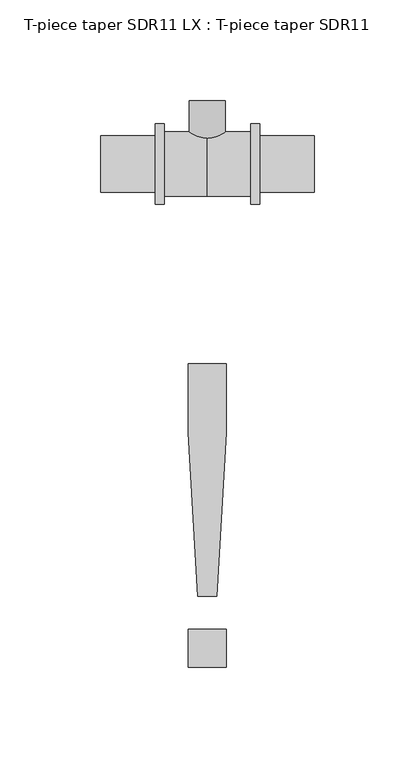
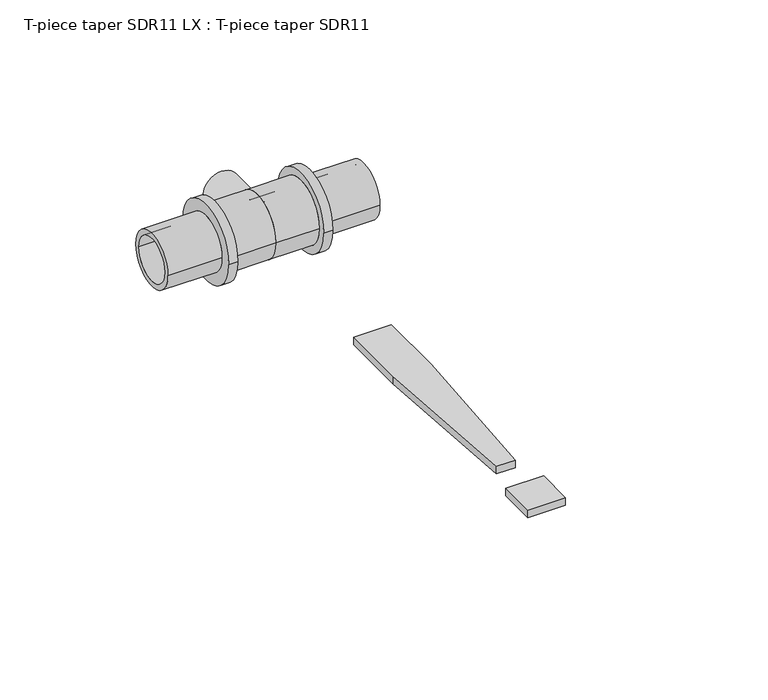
"""IFC4 building model written with IfcOpenShell, lengths in millimetres: pipe fitting geometry, T-piece taper SDR11 LX : T-piece taper SDR11."""

import ifcopenshell
import ifcopenshell.guid

model = None  # the IFC model being written
_history = None  # IfcOwnerHistory: only IFC2X3 demands one
_inside = {}  # id of a spatial element -> (the spatial element, [elements in it])
_under = {}  # id of a project, library or spatial element -> (it, [spatial elements below it])
_declared = {}  # id of a project -> (the project, [libraries it declares])
_typed = {}  # id of a type object -> (the type object, [elements of that type])
_made_of = {}  # id of a material, layer set ... -> (it, [elements and type objects made of it])


def new_model(schema):
    """Start an empty IFC model of exactly this schema.

    Asked for "IFC4X3", IfcOpenShell would pick the latest addendum, in which some entities
    have other attributes; the version numbers below select the first issue.
    IFC2X3 requires an IfcOwnerHistory on every rooted entity: one is made here for all.
    """
    global model, _history
    if schema == "IFC4X3":
        model = ifcopenshell.file(schema_version=(4, 3, 0, 0))
    else:
        model = ifcopenshell.file(schema=schema)
    _inside.clear()
    _under.clear()
    _declared.clear()
    _typed.clear()
    _made_of.clear()
    _history = None
    if model.schema == "IFC2X3":
        org = make("IfcOrganization", Name="unknown")
        user = make(
            "IfcPersonAndOrganization",
            ThePerson=make("IfcPerson", FamilyName="unknown"),
            TheOrganization=org,
        )
        app = make(
            "IfcApplication",
            ApplicationDeveloper=org,
            Version="unknown",
            ApplicationFullName="unknown",
            ApplicationIdentifier="unknown",
        )
        _history = make(
            "IfcOwnerHistory",
            OwningUser=user,
            OwningApplication=app,
            ChangeAction="ADDED",
            CreationDate=0,
        )
    return model


def make(cls, **values):
    """One entity of the class cls with the attributes given. An attribute that is None is left unset."""
    return model.create_entity(
        cls, **{name: value for name, value in values.items() if value is not None}
    )


def rooted(cls, **values):
    """An entity with a GlobalId (a new one), such as an element, a storey or a relation."""
    return make(cls, GlobalId=ifcopenshell.guid.new(), OwnerHistory=_history, **values)


def si_unit(unit_type, name, prefix=None):
    """IfcSIUnit, for example si_unit("LENGTHUNIT", "METRE", prefix="MILLI")."""
    return make("IfcSIUnit", UnitType=unit_type, Prefix=prefix, Name=name)


def assignment(units):
    """IfcUnitAssignment: the units of a project."""
    return None if units is None else make("IfcUnitAssignment", Units=units)


def point(xyz):
    """IfcCartesianPoint."""
    return None if xyz is None else make("IfcCartesianPoint", Coordinates=xyz)


def direction(xyz):
    """IfcDirection."""
    return None if xyz is None else make("IfcDirection", DirectionRatios=xyz)


def frame(location, z_axis=None, x_axis=None):
    """IfcAxis2Placement3D, a coordinate frame: its origin and axes. An axis left out is left unset."""
    return make(
        "IfcAxis2Placement3D",
        Location=point(location),
        Axis=direction(z_axis),
        RefDirection=direction(x_axis),
    )


def frame_2d(location, x_axis=None):
    """IfcAxis2Placement2D, a coordinate frame in the plane: its origin and x axis."""
    return make(
        "IfcAxis2Placement2D", Location=point(location), RefDirection=direction(x_axis)
    )


def origin():
    """The frame at (0, 0, 0) with its axes left unset."""
    return frame((0.0, 0.0, 0.0))


def origin_with_axes():
    """The frame at (0, 0, 0) with the z axis (0, 0, 1) and the x axis (1, 0, 0) written out."""
    return frame((0.0, 0.0, 0.0), z_axis=(0.0, 0.0, 1.0), x_axis=(1.0, 0.0, 0.0))


def origin_2d():
    """The frame at (0, 0) in the plane with its x axis left unset."""
    return frame_2d((0.0, 0.0))


def place(relative_to, where):
    """IfcLocalPlacement: puts the frame where relative to a parent placement (None: the world)."""
    return make(
        "IfcLocalPlacement", PlacementRelTo=relative_to, RelativePlacement=where
    )


def context(
    kind, dimensions, precision=None, world=None, true_north=None, identifier=None
):
    """IfcGeometricRepresentationContext, for example the 3D "Model" context."""
    return make(
        "IfcGeometricRepresentationContext",
        ContextIdentifier=identifier,
        ContextType=kind,
        CoordinateSpaceDimension=dimensions,
        Precision=precision,
        WorldCoordinateSystem=world,
        TrueNorth=true_north,
    )


def project(units=None, contexts=None):
    """IfcProject with its units and contexts."""
    return rooted(
        "IfcProject",
        Name="project",
        RepresentationContexts=contexts,
        UnitsInContext=assignment(units),
    )


def spatial(cls, under=None, at=None, **own):
    """A site, building, storey or space (cls), placed at a placement, below another one or the project."""
    s = rooted(cls, ObjectPlacement=at, **own)
    if under is not None:
        _under.setdefault(under.id(), (under, []))[1].append(s)
    return s


def polyline(points):
    """IfcPolyline through the points."""
    return make("IfcPolyline", Points=[point(p) for p in points])


def circle_curve(where, radius):
    """IfcCircle in the frame where."""
    return make("IfcCircle", Position=where, Radius=radius)


def trimmed(basis, trim1, trim2, sense, master):
    """IfcTrimmedCurve: the piece of a basis curve between two trims."""
    return make(
        "IfcTrimmedCurve",
        BasisCurve=basis,
        Trim1=trim1,
        Trim2=trim2,
        SenseAgreement=sense,
        MasterRepresentation=master,
    )


def segment(curve, same_sense, transition):
    """IfcCompositeCurveSegment."""
    return make(
        "IfcCompositeCurveSegment",
        Transition=transition,
        SameSense=same_sense,
        ParentCurve=curve,
    )


def composite_curve(segments, self_intersect=None):
    """IfcCompositeCurve: segments joined end to end."""
    return make("IfcCompositeCurve", Segments=segments, SelfIntersect=self_intersect)


def outline(outer, holes=None, kind="AREA"):
    """IfcArbitraryClosedProfileDef: a profile drawn as a closed curve; with holes, ...WithVoids."""
    if holes is None:
        return make("IfcArbitraryClosedProfileDef", ProfileType=kind, OuterCurve=outer)
    return make(
        "IfcArbitraryProfileDefWithVoids",
        ProfileType=kind,
        OuterCurve=outer,
        InnerCurves=holes,
    )


def extrude(swept, where, along, depth):
    """IfcExtrudedAreaSolid: the profile swept, set in the frame where, extruded along a direction by depth."""
    return make(
        "IfcExtrudedAreaSolid",
        SweptArea=swept,
        Position=where,
        ExtrudedDirection=direction(along),
        Depth=depth,
    )


def shape(context_of_items, identifier, shape_type, items):
    """IfcShapeRepresentation: the items that make up one representation, for example the "Body"."""
    return make(
        "IfcShapeRepresentation",
        ContextOfItems=context_of_items,
        RepresentationIdentifier=identifier,
        RepresentationType=shape_type,
        Items=items,
    )


def source(mapping_origin, context_of_items, identifier, shape_type, items):
    """IfcRepresentationMap: a shape defined once, which mapped items show again and again."""
    return make(
        "IfcRepresentationMap",
        MappingOrigin=mapping_origin,
        MappedRepresentation=shape(context_of_items, identifier, shape_type, items),
    )


def transform(
    local_origin,
    x_axis=None,
    y_axis=None,
    z_axis=None,
    scale=None,
    scale2=None,
    scale3=None,
    uniform=True,
):
    """IfcCartesianTransformationOperator3D, or its non-uniform kind. x_axis, y_axis, z_axis: its Axis1, 2, 3."""
    if uniform:
        return make(
            "IfcCartesianTransformationOperator3D",
            Axis1=direction(x_axis),
            Axis2=direction(y_axis),
            LocalOrigin=point(local_origin),
            Scale=scale,
            Axis3=direction(z_axis),
        )
    return make(
        "IfcCartesianTransformationOperator3DnonUniform",
        Axis1=direction(x_axis),
        Axis2=direction(y_axis),
        LocalOrigin=point(local_origin),
        Scale=scale,
        Axis3=direction(z_axis),
        Scale2=scale2,
        Scale3=scale3,
    )


def mapped(mapping_source, mapping_target):
    """IfcMappedItem: shows the shape of a source again, moved by a transform."""
    return make(
        "IfcMappedItem", MappingSource=mapping_source, MappingTarget=mapping_target
    )


def made_of(thing, what):
    """Note that an element or type object is made of a material, layer set ...; save() writes the relation."""
    if what is not None:
        _made_of.setdefault(what.id(), (what, []))[1].append(thing)
    return thing


def element(
    cls,
    number,
    at=None,
    inside=None,
    cuts=None,
    type_object=None,
    material=None,
    context=None,
    identifier="Body",
    shape_type=None,
    held_by="IfcProductDefinitionShape",
    body=None,
    shapes=None,
    **own,
):
    """One element of the class cls, such as IfcWall. Its Tag is "e" and its number.

    at: its placement. inside: the storey or other place that contains it. cuts: it is an
    opening in that element (IfcRelVoidsElement). A single representation is given by context,
    identifier, shape_type and body (its items); several are given by shapes. held_by: the class
    of the entity that holds the representations. save() writes the other relations.
    """
    e = rooted(cls, Tag="e%d" % number, ObjectPlacement=at, **own)
    if body is not None:
        shapes = [shape(context, identifier, shape_type, body)]
    if shapes is not None:
        e.Representation = make(held_by, Representations=shapes)
    if inside is not None:
        _inside.setdefault(inside.id(), (inside, []))[1].append(e)
    if cuts is not None:
        rooted(
            "IfcRelVoidsElement", RelatingBuildingElement=cuts, RelatedOpeningElement=e
        )
    if type_object is not None:
        _typed.setdefault(type_object.id(), (type_object, []))[1].append(e)
    return made_of(e, material)


def aggregate(whole, parts):
    """IfcRelAggregates: a whole, such as a stair, and the parts it consists of."""
    return rooted("IfcRelAggregates", RelatingObject=whole, RelatedObjects=parts)


def save(model, path):
    """Write the relations noted so far, then the file.

    IfcRelAggregates (storeys below a building ...), IfcRelContainedInSpatialStructure (elements
    in a storey), IfcRelDefinesByType, IfcRelAssociatesMaterial and IfcRelDeclares: one each for
    every whole, place, type object, material and project.
    """
    for whole, parts in _under.values():
        aggregate(whole, parts)
    for where, things in _inside.values():
        rooted(
            "IfcRelContainedInSpatialStructure",
            RelatedElements=things,
            RelatingStructure=where,
        )
    for kind, things in _typed.values():
        rooted("IfcRelDefinesByType", RelatedObjects=things, RelatingType=kind)
    for what, things in _made_of.values():
        rooted("IfcRelAssociatesMaterial", RelatedObjects=things, RelatingMaterial=what)
    for by, libraries in _declared.values():
        rooted("IfcRelDeclares", RelatingContext=by, RelatedDefinitions=libraries)
    model.write(path)


def plane_surface(at):
    """IfcPlane: the flat surface through the origin of the frame at, square to its z axis."""
    return make("IfcPlane", Position=at)


def cylinder_surface(at, radius):
    """IfcCylindricalSurface: all points at the distance radius from the z axis of the frame at."""
    return make("IfcCylindricalSurface", Position=at, Radius=radius)


def revolved_surface(curve, axis_point, axis_direction):
    """IfcSurfaceOfRevolution: the curve turned about the line through axis_point along axis_direction."""
    return make(
        "IfcSurfaceOfRevolution",
        SweptCurve=make("IfcArbitraryOpenProfileDef", ProfileType="CURVE", Curve=curve),
        AxisPosition=make("IfcAxis1Placement", Location=point(axis_point), Axis=direction(axis_direction)),
    )


def advanced_brep(points, edges, surfaces, faces):
    """IfcAdvancedBrep: a solid bounded by faces that lie on surfaces and meet in shared edges.

    An edge is (start, end): straight between two places in points (the first is 0);
    or (start, end, curve); or (start, end, curve, False) where it runs against its curve.
    A face is (place in surfaces, loops), or (place, loops, False) where it looks against
    its surface's normal. A loop lists edges by number (the first is 1), with a minus sign
    where the edge is run from its end to its start. The first loop is the outer one.
    """
    corners = [point(p) for p in points]
    vertices = [make("IfcVertexPoint", VertexGeometry=c) for c in corners]
    made = []
    for start, end, *more in edges:
        made.append(
            make(
                "IfcEdgeCurve",
                EdgeStart=vertices[start],
                EdgeEnd=vertices[end],
                EdgeGeometry=more[0] if more else make("IfcPolyline", Points=[corners[start], corners[end]]),
                SameSense=more[1] if len(more) > 1 else True,
            )
        )
    hull = []
    for where, loops, *sense in faces:
        bounds = []
        for j, loop in enumerate(loops):
            ring = [make("IfcOrientedEdge", EdgeElement=made[abs(k) - 1], Orientation=k > 0) for k in loop]
            bounds.append(
                make(
                    "IfcFaceOuterBound" if j == 0 else "IfcFaceBound",
                    Bound=make("IfcEdgeLoop", EdgeList=ring),
                    Orientation=True,
                )
            )
        hull.append(make("IfcAdvancedFace", Bounds=bounds, FaceSurface=surfaces[where], SameSense=sense[0] if sense else True))
    return make("IfcAdvancedBrep", Outer=make("IfcClosedShell", CfsFaces=hull))


def t_piece_taper_sdr11_lx_t_piece_taper_sdr11_0d628ed7(model_context):
    return source(origin(), model_context, "Body", "SolidModel", [
        extrude(outline(polyline([(-4.7088895, -214.6833285), (-9.4177791, -133.3446193), (-9.4177791, -99.3155348), (9.4177791, -99.3155348), (9.4177791, -133.3446193), (4.7088895, -214.6833285), (-4.7088895, -214.6833285)])), origin_with_axes(), (0.0, 0.0, 1.0), 4.0),
        extrude(outline(polyline([(-9.4177791, -250.0), (-9.4177791, -231.1644418), (9.4177791, -231.1644418), (9.4177791, -250.0), (-9.4177791, -250.0)])), origin_with_axes(), (0.0, 0.0, 1.0), 4.0),
        extrude(outline(composite_curve([segment(trimmed(circle_curve(origin_2d(), 9.0), [point((0.0, 9.0))], [point((0.0, -9.0))], False, "CARTESIAN"), True, "CONTINUOUS"), segment(trimmed(circle_curve(origin_2d(), 9.0), [point((0.0, -9.0))], [point((0.0, 9.0))], False, "CARTESIAN"), True, "CONTINUOUS")], self_intersect=False), holes=[composite_curve([segment(trimmed(circle_curve(origin_2d(), 6.5), [point((0.0, -6.5))], [point((0.0, 6.5))], True, "CARTESIAN"), True, "CONTINUOUS"), segment(trimmed(circle_curve(origin_2d(), 6.5), [point((0.0, 6.5))], [point((0.0, -6.5))], True, "CARTESIAN"), True, "CONTINUOUS")], self_intersect=False)]), frame((0.0, 0.0, 0.0), z_axis=(0.0, 1.0, 0.0), x_axis=(0.0, 0.0, 1.0)), (0.0, 0.0, 1.0), 31.5),
        advanced_brep(
        [(21.5, 16.0, 0.0), (21.5, -16.0, 0.0), (0.0, -16.0, 0.0), (0.0, 16.0, 0.0), (0.0, 11.2, 0.0), (0.0, -11.2, 0.0), (53.0, -11.2, 0.0), (53.0, 11.2, 0.0), (53.0, 13.95, 0.0), (53.0, -13.95, 0.0), (26.0, -13.95, 0.0), (26.0, 13.95, 0.0), (26.0, 20.0, 0.0), (26.0, -20.0, 0.0), (21.5, -20.0, 0.0), (21.5, 20.0, 0.0)],
        [
            (0, 1, circle_curve(frame((21.5, 0.0, 0.0), z_axis=(-1.0, 0.0, 0.0), x_axis=(0.0, -1.0, 0.0)), 16.0)),
            (1, 2),
            (2, 3, circle_curve(frame((0.0, 0.0, 0.0), z_axis=(1.0, 0.0, 0.0), x_axis=(0.0, -1.0, 0.0)), 16.0)),
            (3, 0),
            (4, 5, circle_curve(frame((0.0, 0.0, 0.0), z_axis=(-1.0, 0.0, 0.0), x_axis=(0.0, -1.0, 0.0)), 11.2)),
            (5, 6),
            (6, 7, circle_curve(frame((53.0, 0.0, 0.0), z_axis=(1.0, 0.0, 0.0), x_axis=(0.0, -1.0, 0.0)), 11.2)),
            (7, 4),
            (8, 9, circle_curve(frame((53.0, 0.0, 0.0), z_axis=(-1.0, 0.0, 0.0), x_axis=(0.0, -1.0, 0.0)), 13.95)),
            (9, 10),
            (10, 11, circle_curve(frame((26.0, 0.0, 0.0), z_axis=(1.0, 0.0, 0.0), x_axis=(0.0, -1.0, 0.0)), 13.95)),
            (11, 8),
            (12, 13, circle_curve(frame((26.0, 0.0, 0.0), z_axis=(-1.0, 0.0, 0.0), x_axis=(0.0, -1.0, 0.0)), 20.0)),
            (13, 14),
            (14, 15, circle_curve(frame((21.5, 0.0, 0.0), z_axis=(1.0, 0.0, 0.0), x_axis=(0.0, -1.0, 0.0)), 20.0)),
            (15, 12),
            (14, 15, circle_curve(frame((21.5, 0.0, 0.0), z_axis=(-1.0, 0.0, 0.0), x_axis=(0.0, 1.0, 0.0)), 20.0)),
            (0, 1, circle_curve(frame((21.5, 0.0, 0.0), z_axis=(1.0, 0.0, 0.0), x_axis=(0.0, 1.0, 0.0)), 16.0)),
            (3, 2, circle_curve(frame((0.0, 0.0, 0.0), z_axis=(1.0, 0.0, 0.0), x_axis=(0.0, 1.0, 0.0)), 16.0)),
            (4, 5, circle_curve(frame((0.0, 0.0, 0.0), z_axis=(1.0, 0.0, 0.0), x_axis=(0.0, 1.0, 0.0)), 11.2)),
            (7, 6, circle_curve(frame((53.0, 0.0, 0.0), z_axis=(1.0, 0.0, 0.0), x_axis=(0.0, 1.0, 0.0)), 11.2)),
            (8, 9, circle_curve(frame((53.0, 0.0, 0.0), z_axis=(1.0, 0.0, 0.0), x_axis=(0.0, 1.0, 0.0)), 13.95)),
            (11, 10, circle_curve(frame((26.0, 0.0, 0.0), z_axis=(1.0, 0.0, 0.0), x_axis=(0.0, 1.0, 0.0)), 13.95)),
            (12, 13, circle_curve(frame((26.0, 0.0, 0.0), z_axis=(1.0, 0.0, 0.0), x_axis=(0.0, 1.0, 0.0)), 20.0)),
        ],
        [
            cylinder_surface(frame((0.0, 0.0, 0.0), z_axis=(1.0, 0.0, 0.0), x_axis=(0.0, -1.0, 0.0)), 16.0),
            revolved_surface(polyline([(53.0, -11.2, 0.0), (0.0, -11.2, 0.0)]), (0.0, 0.0, 0.0), (1.0, 0.0, 0.0)),
            cylinder_surface(frame((0.0, 0.0, 0.0), z_axis=(1.0, 0.0, 0.0), x_axis=(0.0, -1.0, 0.0)), 13.95),
            cylinder_surface(frame((0.0, 0.0, 0.0), z_axis=(1.0, 0.0, 0.0), x_axis=(0.0, -1.0, 0.0)), 20.0),
            plane_surface(frame((21.5, 0.0, 0.0), z_axis=(-1.0, 0.0, 0.0), x_axis=(0.0, 1.0, 0.0))),
            cylinder_surface(frame((0.0, 0.0, 0.0), z_axis=(1.0, 0.0, 0.0), x_axis=(0.0, 1.0, 0.0)), 16.0),
            plane_surface(frame((0.0, 0.0, 0.0), z_axis=(-1.0, 0.0, 0.0), x_axis=(0.0, 1.0, 0.0))),
            revolved_surface(polyline([(53.0, 11.2, 0.0), (0.0, 11.2, 0.0)]), (0.0, 0.0, 0.0), (1.0, 0.0, 0.0)),
            plane_surface(frame((53.0, 0.0, 0.0), z_axis=(1.0, 0.0, 0.0), x_axis=(0.0, 1.0, 0.0))),
            cylinder_surface(frame((0.0, 0.0, 0.0), z_axis=(1.0, 0.0, 0.0), x_axis=(0.0, 1.0, 0.0)), 13.95),
            plane_surface(frame((26.0, 0.0, 0.0), z_axis=(1.0, 0.0, 0.0), x_axis=(0.0, 1.0, 0.0))),
            cylinder_surface(frame((0.0, 0.0, 0.0), z_axis=(1.0, 0.0, 0.0), x_axis=(0.0, 1.0, 0.0)), 20.0),
        ],
        [
            (0, [[1, 2, 3, 4]]),
            (1, [[5, 6, 7, 8]]),
            (2, [[9, 10, 11, 12]]),
            (3, [[13, 14, 15, 16]]),
            (4, [[17, -15], [18, -1]]),
            (5, [[-18, -4, 19, -2]]),
            (6, [[-19, -3], [20, -5]]),
            (7, [[-20, -8, 21, -6]]),
            (8, [[22, -9], [-21, -7]]),
            (9, [[-22, -12, 23, -10]]),
            (10, [[24, -13], [-23, -11]]),
            (11, [[-24, -16, -17, -14]]),
        ],
    ),
        advanced_brep(
        [(0.0, 16.0, 0.0), (0.0, -16.0, 0.0), (-21.5, -16.0, 0.0), (-21.5, 16.0, 0.0), (-53.0, 11.2, 0.0), (-53.0, -11.2, 0.0), (0.0, -11.2, 0.0), (0.0, 11.2, 0.0), (-26.0, 13.95, 0.0), (-26.0, -13.95, 0.0), (-53.0, -13.95, 0.0), (-53.0, 13.95, 0.0), (-21.5, 20.0, 0.0), (-21.5, -20.0, 0.0), (-26.0, -20.0, 0.0), (-26.0, 20.0, 0.0)],
        [
            (0, 1, circle_curve(frame((0.0, 0.0, 0.0), z_axis=(-1.0, 0.0, 0.0), x_axis=(0.0, -1.0, 0.0)), 16.0)),
            (1, 2),
            (2, 3, circle_curve(frame((-21.5, 0.0, 0.0), z_axis=(1.0, 0.0, 0.0), x_axis=(0.0, -1.0, 0.0)), 16.0)),
            (3, 0),
            (4, 5, circle_curve(frame((-53.0, 0.0, 0.0), z_axis=(-1.0, 0.0, 0.0), x_axis=(0.0, -1.0, 0.0)), 11.2)),
            (5, 6),
            (6, 7, circle_curve(frame((0.0, 0.0, 0.0), z_axis=(1.0, 0.0, 0.0), x_axis=(0.0, -1.0, 0.0)), 11.2)),
            (7, 4),
            (8, 9, circle_curve(frame((-26.0, 0.0, 0.0), z_axis=(-1.0, 0.0, 0.0), x_axis=(0.0, -1.0, 0.0)), 13.95)),
            (9, 10),
            (10, 11, circle_curve(frame((-53.0, 0.0, 0.0), z_axis=(1.0, 0.0, 0.0), x_axis=(0.0, -1.0, 0.0)), 13.95)),
            (11, 8),
            (12, 13, circle_curve(frame((-21.5, 0.0, 0.0), z_axis=(-1.0, 0.0, 0.0), x_axis=(0.0, -1.0, 0.0)), 20.0)),
            (13, 14),
            (14, 15, circle_curve(frame((-26.0, 0.0, 0.0), z_axis=(1.0, 0.0, 0.0), x_axis=(0.0, -1.0, 0.0)), 20.0)),
            (15, 12),
            (12, 13, circle_curve(frame((-21.5, 0.0, 0.0), z_axis=(1.0, 0.0, 0.0), x_axis=(0.0, 1.0, 0.0)), 20.0)),
            (2, 3, circle_curve(frame((-21.5, 0.0, 0.0), z_axis=(-1.0, 0.0, 0.0), x_axis=(0.0, 1.0, 0.0)), 16.0)),
            (1, 0, circle_curve(frame((0.0, 0.0, 0.0), z_axis=(-1.0, 0.0, 0.0), x_axis=(0.0, 1.0, 0.0)), 16.0)),
            (6, 7, circle_curve(frame((0.0, 0.0, 0.0), z_axis=(-1.0, 0.0, 0.0), x_axis=(0.0, 1.0, 0.0)), 11.2)),
            (5, 4, circle_curve(frame((-53.0, 0.0, 0.0), z_axis=(-1.0, 0.0, 0.0), x_axis=(0.0, 1.0, 0.0)), 11.2)),
            (10, 11, circle_curve(frame((-53.0, 0.0, 0.0), z_axis=(-1.0, 0.0, 0.0), x_axis=(0.0, 1.0, 0.0)), 13.95)),
            (9, 8, circle_curve(frame((-26.0, 0.0, 0.0), z_axis=(-1.0, 0.0, 0.0), x_axis=(0.0, 1.0, 0.0)), 13.95)),
            (14, 15, circle_curve(frame((-26.0, 0.0, 0.0), z_axis=(-1.0, 0.0, 0.0), x_axis=(0.0, 1.0, 0.0)), 20.0)),
        ],
        [
            cylinder_surface(frame((0.0, 0.0, 0.0), z_axis=(1.0, 0.0, 0.0), x_axis=(0.0, -1.0, 0.0)), 16.0),
            revolved_surface(polyline([(0.0, -11.2, 0.0), (-53.0, -11.2, 0.0)]), (0.0, 0.0, 0.0), (1.0, 0.0, 0.0)),
            cylinder_surface(frame((0.0, 0.0, 0.0), z_axis=(1.0, 0.0, 0.0), x_axis=(0.0, -1.0, 0.0)), 13.95),
            cylinder_surface(frame((0.0, 0.0, 0.0), z_axis=(1.0, 0.0, 0.0), x_axis=(0.0, -1.0, 0.0)), 20.0),
            plane_surface(frame((-21.5, 0.0, 0.0), z_axis=(1.0, 0.0, 0.0), x_axis=(0.0, 1.0, 0.0))),
            cylinder_surface(frame((0.0, 0.0, 0.0), z_axis=(1.0, 0.0, 0.0), x_axis=(0.0, 1.0, 0.0)), 16.0),
            plane_surface(frame((0.0, 0.0, 0.0), z_axis=(1.0, 0.0, 0.0), x_axis=(0.0, 1.0, 0.0))),
            revolved_surface(polyline([(0.0, 11.2, 0.0), (-53.0, 11.2, 0.0)]), (0.0, 0.0, 0.0), (1.0, 0.0, 0.0)),
            plane_surface(frame((-53.0, 0.0, 0.0), z_axis=(-1.0, 0.0, 0.0), x_axis=(0.0, 1.0, 0.0))),
            cylinder_surface(frame((0.0, 0.0, 0.0), z_axis=(1.0, 0.0, 0.0), x_axis=(0.0, 1.0, 0.0)), 13.95),
            plane_surface(frame((-26.0, 0.0, 0.0), z_axis=(-1.0, 0.0, 0.0), x_axis=(0.0, 1.0, 0.0))),
            cylinder_surface(frame((0.0, 0.0, 0.0), z_axis=(1.0, 0.0, 0.0), x_axis=(0.0, 1.0, 0.0)), 20.0),
        ],
        [
            (0, [[1, 2, 3, 4]]),
            (1, [[5, 6, 7, 8]]),
            (2, [[9, 10, 11, 12]]),
            (3, [[13, 14, 15, 16]]),
            (4, [[17, -13], [18, -3]]),
            (5, [[19, -4, -18, -2]]),
            (6, [[-19, -1], [20, -7]]),
            (7, [[21, -8, -20, -6]]),
            (8, [[22, -11], [-21, -5]]),
            (9, [[23, -12, -22, -10]]),
            (10, [[24, -15], [-23, -9]]),
            (11, [[-17, -16, -24, -14]]),
        ],
    ),
    ])


if __name__ == "__main__":
    model = new_model("IFC4")
    model_context = context("Model", 3, world=origin())
    ifc_project = project(units=[si_unit("LENGTHUNIT", "METRE", prefix="MILLI")], contexts=[model_context])
    site = spatial("IfcSite", under=ifc_project)
    building = spatial("IfcBuilding", under=site)
    placement = place(None, origin())
    t_piece_taper_sdr11_lx_t_piece_taper_sdr11_shape = t_piece_taper_sdr11_lx_t_piece_taper_sdr11_0d628ed7(model_context)
    element("IfcPipeFitting", 1, ObjectType="T-piece taper SDR11 LX : T-piece taper SDR11", at=placement, inside=building, context=model_context, shape_type="MappedRepresentation", body=[
        mapped(t_piece_taper_sdr11_lx_t_piece_taper_sdr11_shape, transform((0.0, 0.0, 0.0), x_axis=(1.0, 0.0, 0.0), y_axis=(0.0, 1.0, 0.0), z_axis=(0.0, 0.0, 1.0))),
    ])
    save(model, "model.ifc")
